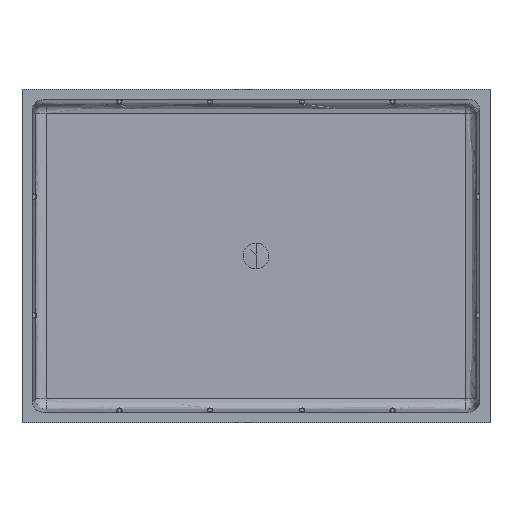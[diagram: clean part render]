
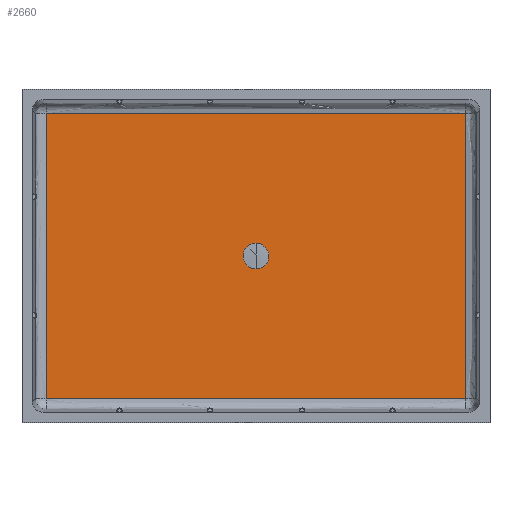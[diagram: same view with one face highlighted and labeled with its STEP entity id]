
A CAD part, top view. The second image highlights one B-rep face of the part: STEP entity #2660.
In plain terms, the highlighted planar face has unit normal (0, 0, 1).
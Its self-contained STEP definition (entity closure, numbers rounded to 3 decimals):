
#43 = LINE ( 'NONE', #5876, #5015 ) ;
#162 = CARTESIAN_POINT ( 'NONE',  ( 204.013, 138.571, -125.23 ) ) ;
#335 = CARTESIAN_POINT ( 'NONE',  ( 204.013, -138.571, -125.23 ) ) ;
#494 = VECTOR ( 'NONE', #4764, 1000. ) ;
#721 = LINE ( 'NONE', #4708, #4574 ) ;
#797 = EDGE_CURVE ( 'NONE', #6126, #2500, #2505, .T. ) ;
#822 = CARTESIAN_POINT ( 'NONE',  ( 0., 12.443, -125.23 ) ) ;
#843 = DIRECTION ( 'NONE',  ( 0., -1., 0. ) ) ;
#885 = CARTESIAN_POINT ( 'NONE',  ( 204.013, -156.47, -125.23 ) ) ;
#1587 = CARTESIAN_POINT ( 'NONE',  ( -204.013, -138.571, -125.23 ) ) ;
#1727 = EDGE_CURVE ( 'NONE', #2500, #6126, #5211, .T. ) ;
#1728 = CARTESIAN_POINT ( 'NONE',  ( 0., 12.443, -125.23 ) ) ;
#1760 = CARTESIAN_POINT ( 'NONE',  ( -24.992, -12.443, -125.23 ) ) ;
#1820 = DIRECTION ( 'NONE',  ( 1., 0., 0. ) ) ;
#1928 = EDGE_CURVE ( 'NONE', #2629, #3921, #43, .T. ) ;
#2146 = FACE_OUTER_BOUND ( 'NONE', #5987, .T. ) ;
#2278 = EDGE_LOOP ( 'NONE', ( #6176, #3250 ) ) ;
#2347 = AXIS2_PLACEMENT_3D ( 'NONE', #3243, #3729, #843 ) ;
#2500 = VERTEX_POINT ( 'NONE', #1728 ) ;
#2505 =( BOUNDED_CURVE ( )  B_SPLINE_CURVE ( 3, ( #6076, #1760, #3711, #822 ),
 .UNSPECIFIED., .F., .F. ) 
 B_SPLINE_CURVE_WITH_KNOTS ( ( 4, 4 ),
 ( 0., 0.5 ),
 .UNSPECIFIED. ) 
 CURVE ( )  GEOMETRIC_REPRESENTATION_ITEM ( )  RATIONAL_B_SPLINE_CURVE ( ( 1., 0.333, 0.333, 1. ) ) 
 REPRESENTATION_ITEM ( '' )  );
#2629 = VERTEX_POINT ( 'NONE', #335 ) ;
#2660 = ADVANCED_FACE ( 'NONE', ( #2146, #4860 ), #6094, .T. ) ;
#2739 = EDGE_CURVE ( 'NONE', #3717, #2629, #4417, .T. ) ;
#3085 = EDGE_CURVE ( 'NONE', #3921, #5959, #5598, .T. ) ;
#3163 = CARTESIAN_POINT ( 'NONE',  ( 0., -12.443, -125.23 ) ) ;
#3243 = CARTESIAN_POINT ( 'NONE',  ( 221.988, -156.47, -125.23 ) ) ;
#3250 = ORIENTED_EDGE ( 'NONE', *, *, #1727, .T. ) ;
#3318 = CARTESIAN_POINT ( 'NONE',  ( -204.013, -156.47, -125.23 ) ) ;
#3711 = CARTESIAN_POINT ( 'NONE',  ( -24.992, 12.443, -125.23 ) ) ;
#3717 = VERTEX_POINT ( 'NONE', #162 ) ;
#3729 = DIRECTION ( 'NONE',  ( 0., 0., 1. ) ) ;
#3735 = ORIENTED_EDGE ( 'NONE', *, *, #2739, .F. ) ;
#3921 = VERTEX_POINT ( 'NONE', #1587 ) ;
#4004 = DIRECTION ( 'NONE',  ( -1., 0., 0. ) ) ;
#4417 = LINE ( 'NONE', #885, #5675 ) ;
#4496 = CARTESIAN_POINT ( 'NONE',  ( 0., -12.443, -125.23 ) ) ;
#4574 = VECTOR ( 'NONE', #1820, 1000. ) ;
#4708 = CARTESIAN_POINT ( 'NONE',  ( 221.988, 138.571, -125.23 ) ) ;
#4721 = ORIENTED_EDGE ( 'NONE', *, *, #6223, .F. ) ;
#4764 = DIRECTION ( 'NONE',  ( 0., 1., 0. ) ) ;
#4860 = FACE_BOUND ( 'NONE', #2278, .T. ) ;
#5015 = VECTOR ( 'NONE', #4004, 1000. ) ;
#5061 = CARTESIAN_POINT ( 'NONE',  ( 24.992, 12.443, -125.23 ) ) ;
#5173 = CARTESIAN_POINT ( 'NONE',  ( -204.013, 138.571, -125.23 ) ) ;
#5211 =( BOUNDED_CURVE ( )  B_SPLINE_CURVE ( 3, ( #5534, #5061, #6013, #3163 ),
 .UNSPECIFIED., .F., .F. ) 
 B_SPLINE_CURVE_WITH_KNOTS ( ( 4, 4 ),
 ( 0.5, 1. ),
 .UNSPECIFIED. ) 
 CURVE ( )  GEOMETRIC_REPRESENTATION_ITEM ( )  RATIONAL_B_SPLINE_CURVE ( ( 1., 0.333, 0.333, 1. ) ) 
 REPRESENTATION_ITEM ( '' )  );
#5534 = CARTESIAN_POINT ( 'NONE',  ( 0., 12.443, -125.23 ) ) ;
#5598 = LINE ( 'NONE', #3318, #494 ) ;
#5675 = VECTOR ( 'NONE', #6140, 1000. ) ;
#5797 = ORIENTED_EDGE ( 'NONE', *, *, #3085, .F. ) ;
#5876 = CARTESIAN_POINT ( 'NONE',  ( 221.988, -138.571, -125.23 ) ) ;
#5959 = VERTEX_POINT ( 'NONE', #5173 ) ;
#5987 = EDGE_LOOP ( 'NONE', ( #5797, #6012, #3735, #4721 ) ) ;
#6012 = ORIENTED_EDGE ( 'NONE', *, *, #1928, .F. ) ;
#6013 = CARTESIAN_POINT ( 'NONE',  ( 24.992, -12.443, -125.23 ) ) ;
#6076 = CARTESIAN_POINT ( 'NONE',  ( 0., -12.443, -125.23 ) ) ;
#6094 = PLANE ( 'NONE',  #2347 ) ;
#6126 = VERTEX_POINT ( 'NONE', #4496 ) ;
#6140 = DIRECTION ( 'NONE',  ( 0., -1., 0. ) ) ;
#6176 = ORIENTED_EDGE ( 'NONE', *, *, #797, .T. ) ;
#6223 = EDGE_CURVE ( 'NONE', #5959, #3717, #721, .T. ) ;
